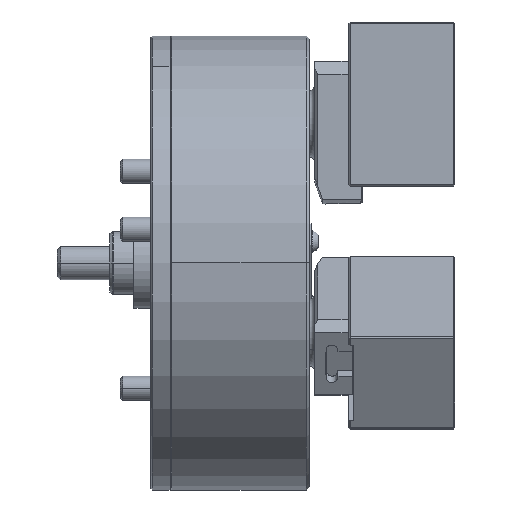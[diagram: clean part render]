
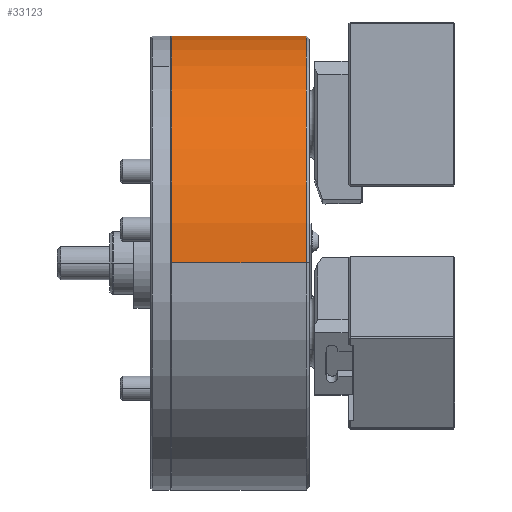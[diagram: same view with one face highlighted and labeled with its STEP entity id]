
A CAD part, top view. The second image highlights one B-rep face of the part: STEP entity #33123.
In plain terms, the highlighted cylindrical face has radius 150 mm (diameter 300 mm), a partial arc.
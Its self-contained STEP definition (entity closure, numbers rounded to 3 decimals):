
#997 = DIRECTION ( 'NONE',  ( 1., 0., 0. ) ) ;
#4722 = EDGE_CURVE ( 'NONE', #32724, #39935, #27372, .T. ) ;
#15652 = CARTESIAN_POINT ( 'NONE',  ( 63.843, 0., 0. ) ) ;
#15801 = DIRECTION ( 'NONE',  ( 0., 0., -1. ) ) ;
#16646 = CARTESIAN_POINT ( 'NONE',  ( -2., 0., -150. ) ) ;
#17695 = CARTESIAN_POINT ( 'NONE',  ( -91.2, 0., -150. ) ) ;
#19116 = EDGE_CURVE ( 'NONE', #23284, #23156, #36340, .T. ) ;
#19795 = DIRECTION ( 'NONE',  ( 1., 0., 0. ) ) ;
#21602 = ORIENTED_EDGE ( 'NONE', *, *, #34496, .F. ) ;
#22732 = CARTESIAN_POINT ( 'NONE',  ( 63.843, 0., 150. ) ) ;
#23156 = VERTEX_POINT ( 'NONE', #45974 ) ;
#23169 = EDGE_CURVE ( 'NONE', #23156, #39935, #29772, .T. ) ;
#23284 = VERTEX_POINT ( 'NONE', #17695 ) ;
#23427 = FACE_OUTER_BOUND ( 'NONE', #23599, .T. ) ;
#23599 = EDGE_LOOP ( 'NONE', ( #38294, #37383, #37110, #21602 ) ) ;
#24052 = AXIS2_PLACEMENT_3D ( 'NONE', #15652, #38049, #34492 ) ;
#24769 = VECTOR ( 'NONE', #29807, 1000. ) ;
#26163 = DIRECTION ( 'NONE',  ( 0., 0., -1. ) ) ;
#26534 = CARTESIAN_POINT ( 'NONE',  ( 63.843, 0., -150. ) ) ;
#27372 = CIRCLE ( 'NONE', #42448, 150. ) ;
#29772 = LINE ( 'NONE', #22732, #40385 ) ;
#29807 = DIRECTION ( 'NONE',  ( 1., 0., 0. ) ) ;
#29915 = CARTESIAN_POINT ( 'NONE',  ( -91.2, 0., 0. ) ) ;
#31834 = CARTESIAN_POINT ( 'NONE',  ( -2., 0., 0. ) ) ;
#32551 = AXIS2_PLACEMENT_3D ( 'NONE', #29915, #19795, #15801 ) ;
#32724 = VERTEX_POINT ( 'NONE', #16646 ) ;
#32906 = CARTESIAN_POINT ( 'NONE',  ( -2., 0., 150. ) ) ;
#33123 = ADVANCED_FACE ( 'NONE', ( #23427 ), #41113, .T. ) ;
#33469 = DIRECTION ( 'NONE',  ( 1., 0., 0. ) ) ;
#34492 = DIRECTION ( 'NONE',  ( 0., 0., -1. ) ) ;
#34496 = EDGE_CURVE ( 'NONE', #23284, #32724, #44488, .T. ) ;
#36340 = CIRCLE ( 'NONE', #32551, 150. ) ;
#37110 = ORIENTED_EDGE ( 'NONE', *, *, #4722, .F. ) ;
#37383 = ORIENTED_EDGE ( 'NONE', *, *, #23169, .T. ) ;
#38049 = DIRECTION ( 'NONE',  ( 1., 0., 0. ) ) ;
#38294 = ORIENTED_EDGE ( 'NONE', *, *, #19116, .T. ) ;
#39935 = VERTEX_POINT ( 'NONE', #32906 ) ;
#40385 = VECTOR ( 'NONE', #997, 1000. ) ;
#41113 = CYLINDRICAL_SURFACE ( 'NONE', #24052, 150. ) ;
#42448 = AXIS2_PLACEMENT_3D ( 'NONE', #31834, #33469, #26163 ) ;
#44488 = LINE ( 'NONE', #26534, #24769 ) ;
#45974 = CARTESIAN_POINT ( 'NONE',  ( -91.2, 0., 150. ) ) ;
